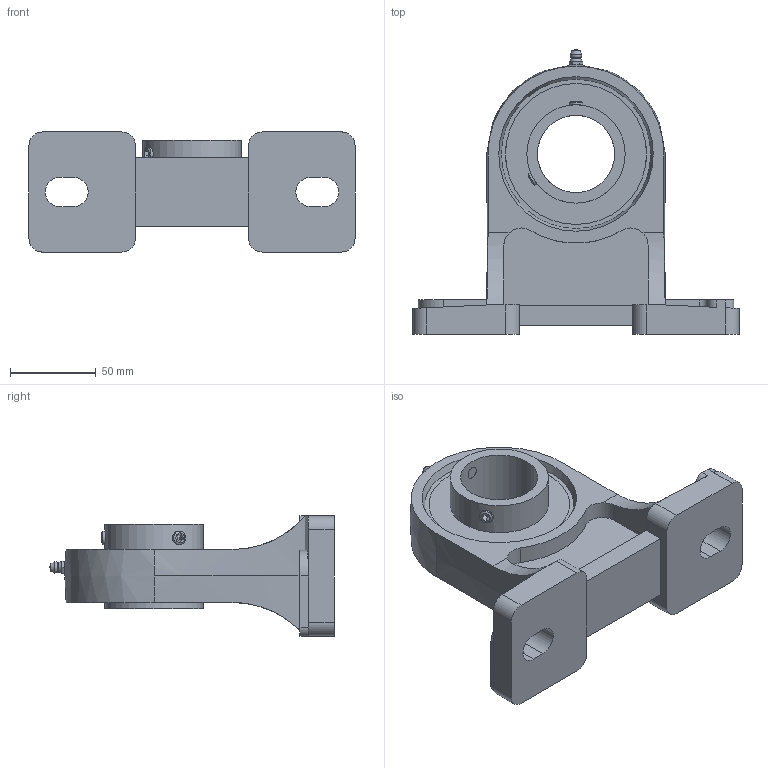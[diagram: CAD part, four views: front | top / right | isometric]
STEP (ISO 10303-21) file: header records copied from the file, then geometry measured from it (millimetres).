
FILE_DESCRIPTION((''),'2;1');
FILE_NAME('\\Ts-tgl068\j-cad-d-base\00.3DCADデータ作成フォルダ\01.ピロー形\UCPH200\UCPH209.stp','2014-04-18T08:30:41',('btec_1106_2'),(''),'Autodesk Inventor 2012','Autodesk Inventor 2012','');
FILE_SCHEMA(('AUTOMOTIVE_DESIGN { 1 0 10303 214 1 1 1 1 }'));
Length unit declared in the file: millimetre
Products named in the file (4): UCPH200; PH [番手=209 ul]; シリーズUC [番手=209 ul]; GU1
Assembly tree (3 placements, depth 2):
  UCPH200
    PH [番手=209 ul]
    シリーズUC [番手=209 ul]
    GU1
Bounding box: 190 x 165.79 x 70 mm (x, y, z)
Volume: 456391.3 mm3; surface area: 97026.2 mm2
Topology: 3 solids, 3 shells, 145 faces, 361 edges, 231 vertices
Faces by surface type: plane 76, cylinder 41, cone 17, bspline 5, sphere 4, torus 2
Full cylindrical faces by diameter (mm): 5.359 x1, 6.35 x1, 8 x2, 45 x1, 57.3 x2
Entity records: 4562 total; most frequent: CARTESIAN_POINT 1132, DIRECTION 680, ORIENTED_EDGE 662, EDGE_CURVE 331, AXIS2_PLACEMENT_3D 250, VERTEX_POINT 221, EDGE_LOOP 184, VECTOR 180
